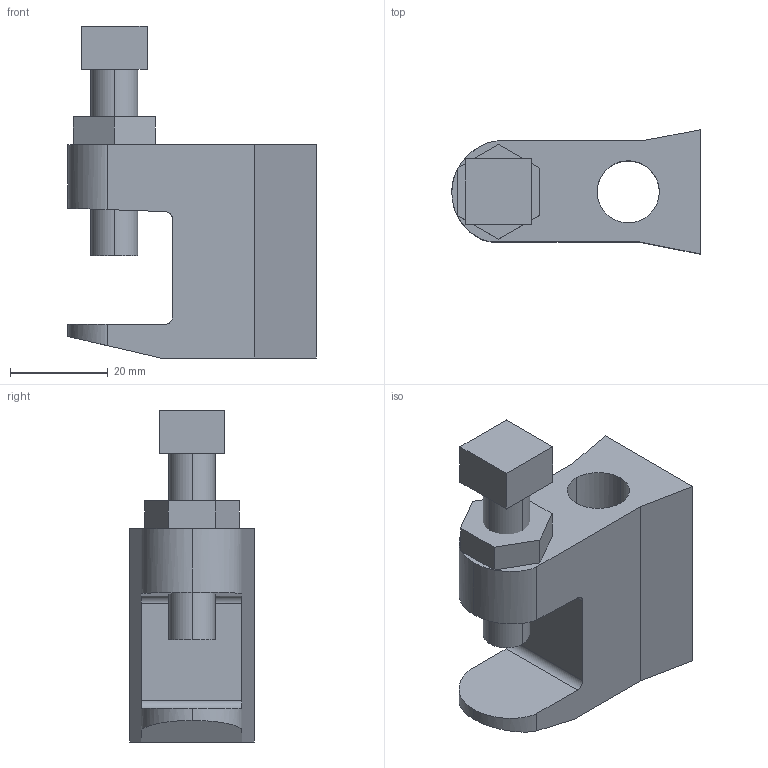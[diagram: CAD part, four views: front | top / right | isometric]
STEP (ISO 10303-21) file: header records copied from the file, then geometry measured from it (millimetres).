
FILE_DESCRIPTION(('TurboCAD Mac Pro'),'Build 980');
FILE_NAME('PFL050.stp',' ',(''),(''),'ACIS Interop','IMSI','TurboCAD Mac Pro BY IMSI, INCORPORATED');
FILE_SCHEMA(('automotive_design'));
Length unit declared in the file: inch
Products named in the file (3): 1; 2; 3
Bounding box: 50.78 x 25.39 x 67.91 mm (x, y, z)
Volume: 35310.1 mm3; surface area: 12275.2 mm2
Topology: 3 solids, 3 shells, 40 faces, 99 edges, 66 vertices
Faces by surface type: plane 26, bspline 14
Entity records: 1701 total; most frequent: CARTESIAN_POINT 450, ORIENTED_EDGE 198, DIRECTION 129, EDGE_CURVE 99, LINE 71, VECTOR 71, VERTEX_POINT 66, STYLED_ITEM 43
